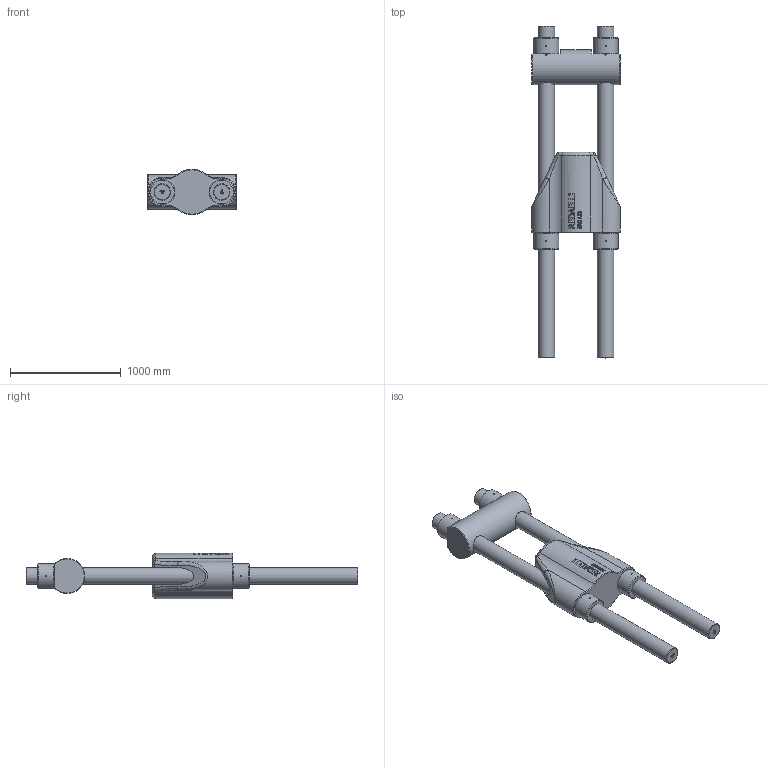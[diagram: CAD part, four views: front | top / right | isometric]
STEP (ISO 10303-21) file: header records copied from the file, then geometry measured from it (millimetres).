
FILE_DESCRIPTION(/* description */ (''),/* implementation_level */ '2;1');
FILE_NAME(/* name */ 'D:\Clienti\Redaelli (inventor)\BRC\STEP\Arrangemet\BRC132 72 111 0.stp',/* time_stamp */ '2021-05-08T08:46:02+02:00',/* author */ ('fabri'),/* organization */ (''),/* preprocessor_version */ 'ST-DEVELOPER v16.13',/* originating_system */ 'Autodesk Inventor 2018',/* authorisation */ '');
FILE_SCHEMA (('AUTOMOTIVE_DESIGN { 1 0 10303 214 3 1 1 }'));
Length unit declared in the file: millimetre
Products named in the file (5): BRC020 72 111 0; BRC020 71 112 0; BRC020 71 114 0_ROD; BRC020 71 113 0; BRC020 71 114 0_NUT
Assembly tree (8 placements, depth 2):
  BRC020 72 111 0
    BRC020 71 112 0
    BRC020 71 114 0_ROD  x2
    BRC020 71 113 0
    BRC020 71 114 0_NUT  x4
Bounding box: 800 x 3000 x 410 mm (x, y, z)
Volume: 291663521 mm3; surface area: 6896061.2 mm2
Topology: 8 solids, 8 shells, 1588 faces, 4334 edges, 2878 vertices
Faces by surface type: plane 799, bspline 667, cylinder 68, cone 30, torus 20, sphere 4
Full cylindrical faces by diameter (mm): 10 x16, 143.505 x4, 150 x2, 156 x4, 225 x4, 318 x1
Entity records: 32200 total; most frequent: CARTESIAN_POINT 12458, ORIENTED_EDGE 4682, DIRECTION 2843, EDGE_CURVE 2341, VERTEX_POINT 1560, LINE 1353, VECTOR 1353, EDGE_LOOP 973
